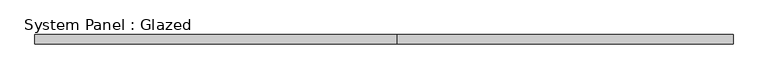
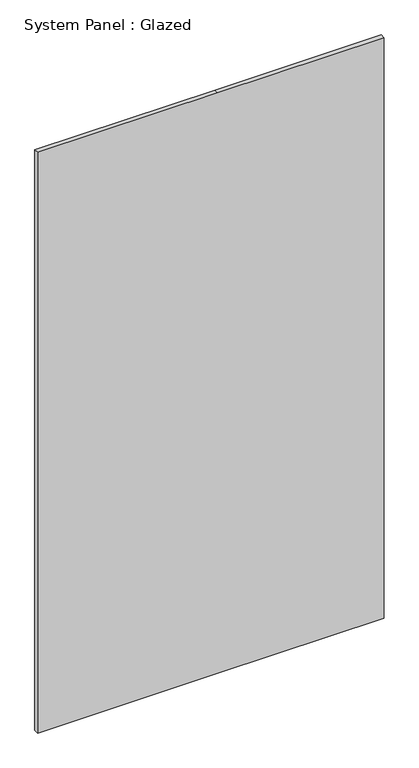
"""IFC4 building model written with IfcOpenShell, lengths in millimetres: plate geometry, System Panel : Glazed."""

from ifc_helpers import new_model, si_unit, frame, origin, place, context, project, spatial, polyline, outline, extrude, source, transform, mapped, element, save


def system_panel_glazed_76a2773f(model_context):
    return source(origin(), model_context, "Body", "SweptSolid", [
        extrude(outline(polyline([(0.0, -971.55), (0.0, 37.0416667), (0.0, 971.55), (3437.9973635, 971.55), (3437.9973635, 37.0416667), (3437.9973635, -971.55), (0.0, -971.55)])), frame((0.0, -44.45, 0.0), z_axis=(0.0, 1.0, 0.0), x_axis=(0.0, 0.0, 1.0)), (0.0, 0.0, 1.0), 25.4),
    ])


if __name__ == "__main__":
    model = new_model("IFC4")
    model_context = context("Model", 3, world=origin())
    ifc_project = project(units=[si_unit("LENGTHUNIT", "METRE", prefix="MILLI")], contexts=[model_context])
    site = spatial("IfcSite", under=ifc_project)
    building = spatial("IfcBuilding", under=site)
    placement = place(None, origin())
    system_panel_glazed_shape = system_panel_glazed_76a2773f(model_context)
    element("IfcPlate", 1, ObjectType="System Panel : Glazed", at=placement, inside=building, context=model_context, shape_type="MappedRepresentation", body=[
        mapped(system_panel_glazed_shape, transform((0.0, 0.0, 0.0), x_axis=(1.0, 0.0, 0.0), y_axis=(0.0, 1.0, 0.0), z_axis=(0.0, 0.0, 1.0))),
    ])
    save(model, "model.ifc")
